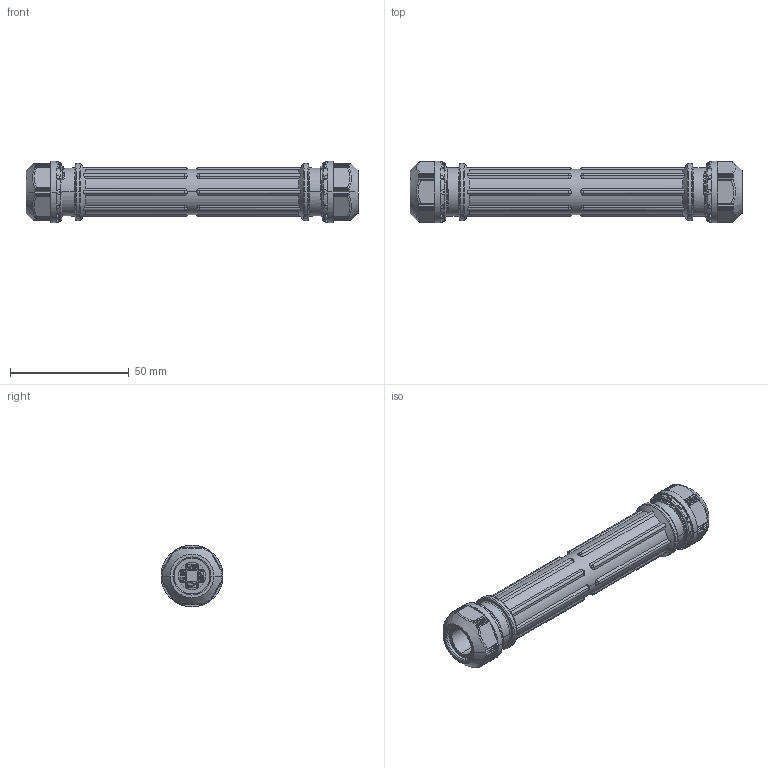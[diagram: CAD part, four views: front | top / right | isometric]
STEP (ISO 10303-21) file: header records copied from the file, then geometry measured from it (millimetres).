
FILE_DESCRIPTION(('Creo Elements/Direct Modeling STEP Export'),'2;1');
FILE_NAME('H12-0002-CL907_OA-QWL0911S-4.stp','2012-09-20T14:30:28',(''),(''),'Creo Elements/Direct Modeling STEP processor for AP214 (Solid Model)','Creo Elements/Direct Modeling 18.0B 02-Dec-2011 (C) Parametric Technology GmbH','');
FILE_SCHEMA(('AUTOMOTIVE_DESIGN { 1 0 10303 214 1 1 1 1 }'));
Length unit declared in the file: millimetre
Products named in the file (27): G13-09B_L; G13-09A_L; G13-09_L; L側; QWL-J4_本体; Ｍ3.5_ねじD; M3.5_ナットD; M3.5_バネ座金D; D; Ｍ3.5_ねじC; M3.5_ナットC; M3.5_バネ座金C; C; Ｍ3.5_ねじB; M3.5_ナットB; M3.5_バネ座金B; B; Ｍ3.5_ねじA; M3.5_ナットA; M3.5_バネ座金A; A; ねじ; 接続ガイド; 本体; G13-11_R; R側; OA-QWL0911S-4
Assembly tree (26 placements, depth 5):
  OA-QWL0911S-4
    R側
      G13-11_R
    本体
    接続ガイド
      ねじ
        A
          M3.5_バネ座金A
          M3.5_ナットA
          Ｍ3.5_ねじA
        B
          M3.5_バネ座金B
          M3.5_ナットB
          Ｍ3.5_ねじB
        C
          M3.5_バネ座金C
          M3.5_ナットC
          Ｍ3.5_ねじC
        D
          M3.5_バネ座金D
          M3.5_ナットD
          Ｍ3.5_ねじD
      QWL-J4_本体
    L側
      G13-09_L
        G13-09A_L
        G13-09B_L
Bounding box: 139.63 x 26 x 26 mm (x, y, z)
Volume: 33963.1 mm3; surface area: 29891.4 mm2
Topology: 17 solids, 17 shells, 1908 faces, 4814 edges, 2915 vertices
Faces by surface type: plane 757, cylinder 621, torus 185, bspline 182, cone 123, sphere 40
Entity records: 91625 total; most frequent: CARTESIAN_POINT 48855, ORIENTED_EDGE 9500, DIRECTION 7665, EDGE_CURVE 4750, VERTEX_POINT 2915, AXIS2_PLACEMENT_3D 2727, VECTOR 2211, LINE 2211
